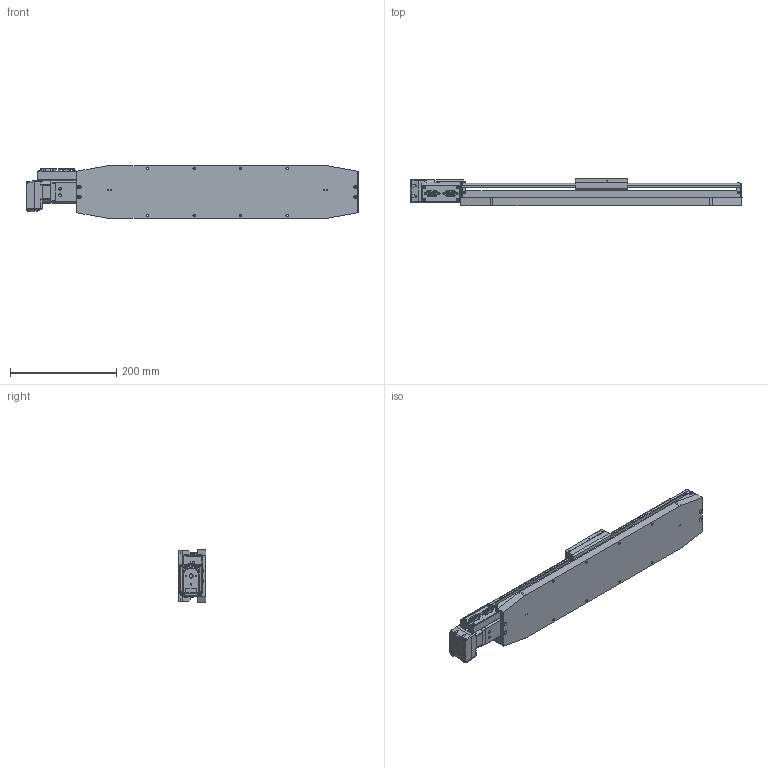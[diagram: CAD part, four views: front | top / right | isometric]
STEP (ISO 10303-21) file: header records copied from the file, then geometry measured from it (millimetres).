
FILE_DESCRIPTION (( 'STEP AP214' ), '1' );
FILE_NAME ('L3500.400-STA_v2_20180822.STEP', '2018-08-22T11:28:15', ( '' ), ( '' ), 'SwSTEP 2.0', 'SolidWorks 2017', '' );
FILE_SCHEMA (( 'AUTOMOTIVE_DESIGN' ));
Length unit declared in the file: millimetre
Products named in the file (1): L3500.400-STA_v2_20180822
Bounding box: 625.93 x 51.67 x 99.06 mm (x, y, z)
Surface area: 431898.6 mm2 (no closed solid volume)
Topology: 0 solids, 37 shells, 3118 faces, 8234 edges, 5303 vertices
Faces by surface type: plane 1344, cylinder 1182, bspline 292, cone 235, torus 65
Entity records: 130173 total; most frequent: CARTESIAN_POINT 54594, ORIENTED_EDGE 16091, DIRECTION 14681, EDGE_CURVE 8057, VERTEX_POINT 5303, AXIS2_PLACEMENT_3D 5167, VECTOR 4347, LINE 4347
